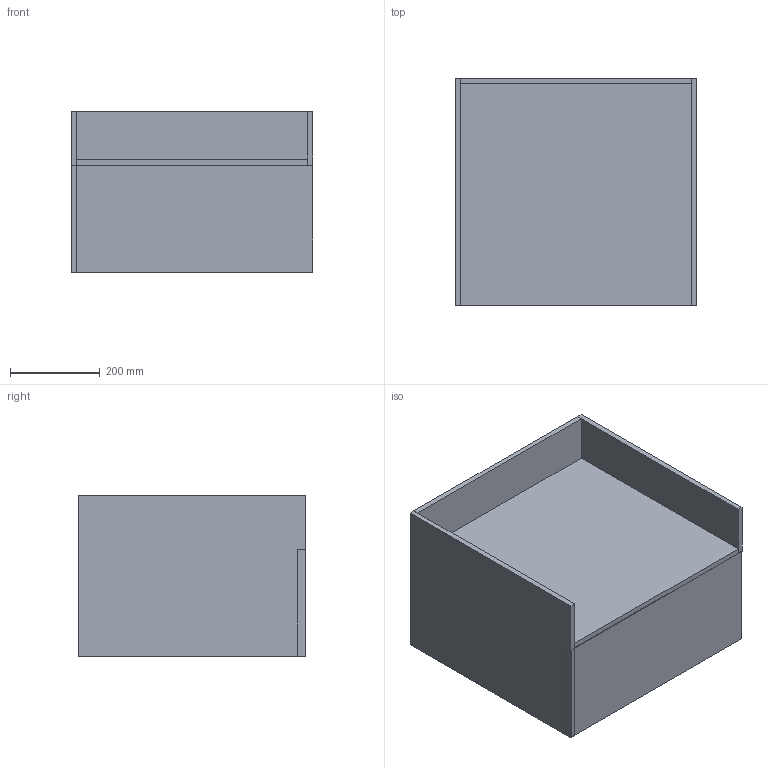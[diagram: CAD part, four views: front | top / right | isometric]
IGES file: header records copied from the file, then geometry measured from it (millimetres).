
Start section: Data from Parasolid IGES Translator 19.0.9, Copyright(c) 2006 Siemens PL M Software. All Rights Reserved.
Global section: file name: noorth-SI-H 36 D 51 W 55,2_9004.igs; native system: By Siemens PLM Incorporated; preprocessor: XPlus GENERIC/IGES 19.0.9; author: Noname; organization: Noname; date: 20200601.100217; units: metre
Bounding box: 540.01 x 508 x 360 mm (x, y, z)
Volume: 19294320.6 mm3; surface area: 3015350.9 mm2
Topology: 9 solids, 9 shells, 54 faces, 108 edges, 72 vertices
Faces by surface type: plane 54
